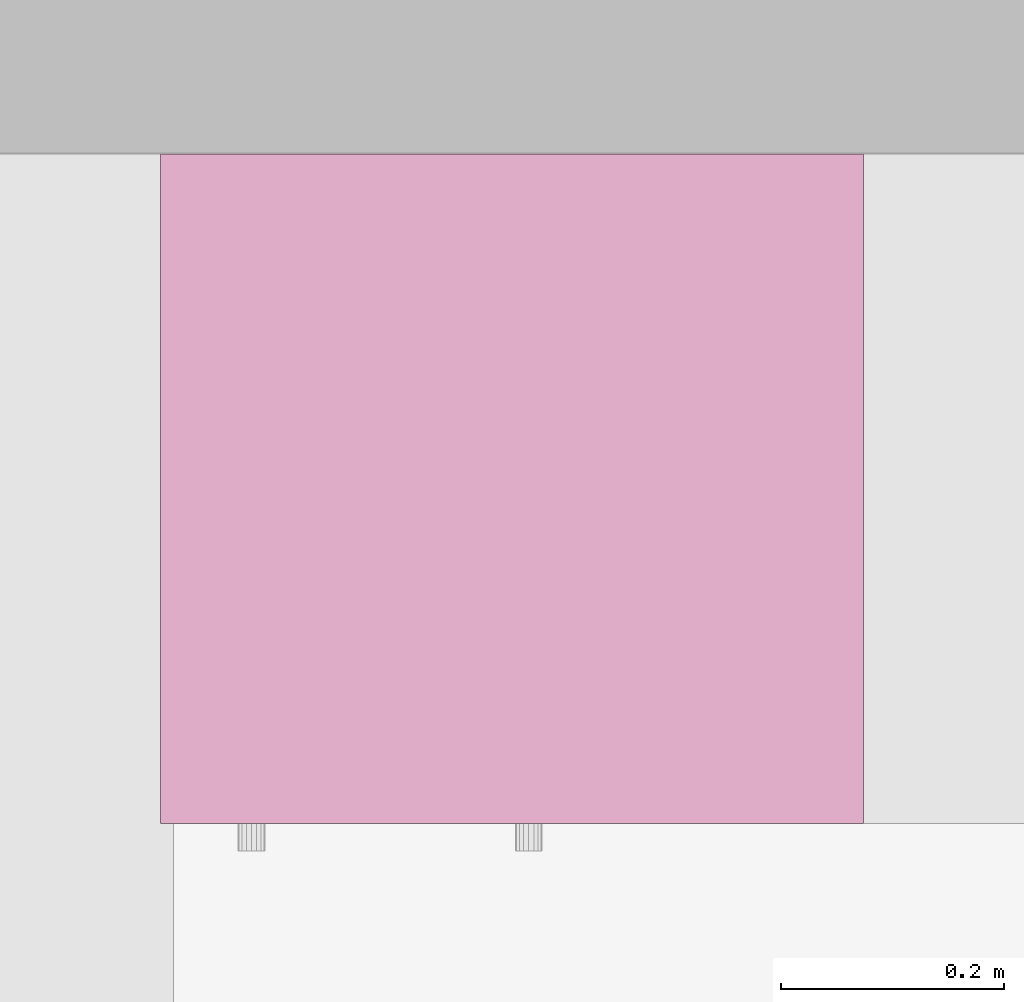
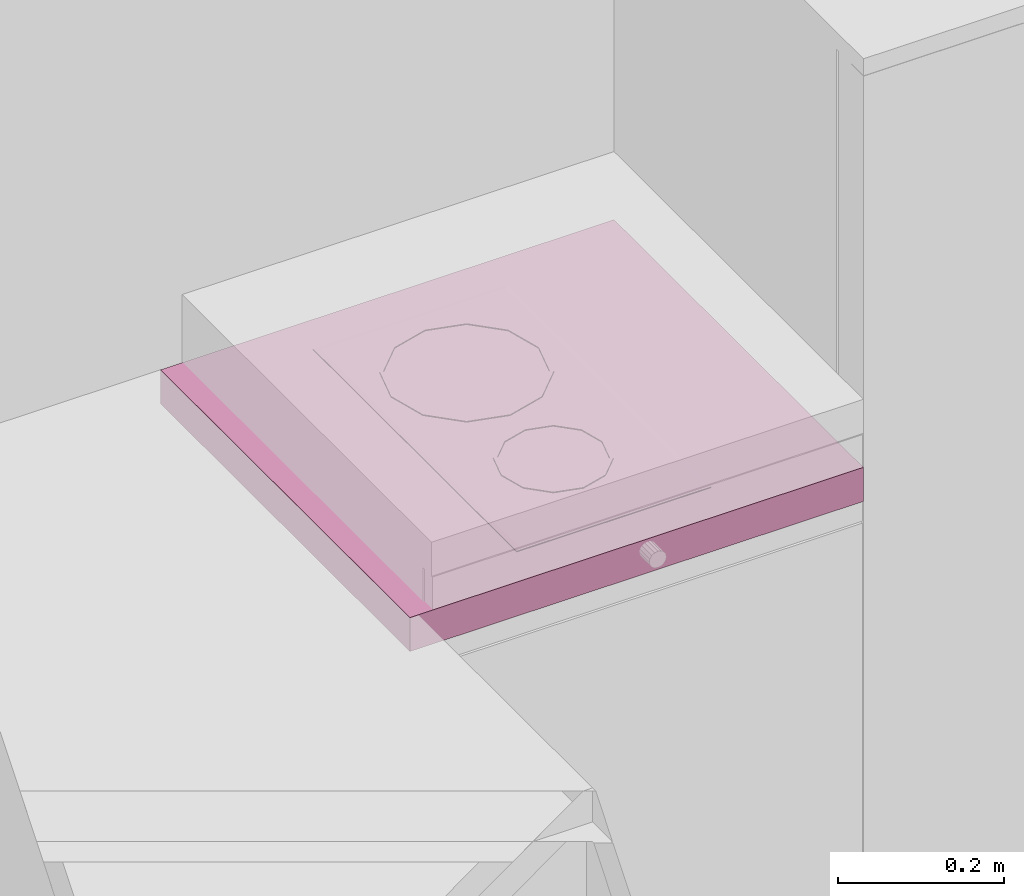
# One storey, part 158 of 172: 1 furnishing.
"""IFC2X3 building model written with IfcOpenShell, lengths in millimetres."""

from ifc_helpers import new_model, entity, si_unit, converted_unit, money_unit, direction, frame, origin_with_axes, place, context, subcontext, project, spatial, faceted_brep, source, transform, mapped, material, material_list, type_object, element, save


model = new_model("IFC2X3")

# Units and contexts
model_context = context("Model", 3, precision=1e-05, world=origin_with_axes(), true_north=direction((0.0, 1.0)))
body_context = subcontext(model_context, "Body", "Model", "MODEL_VIEW")
ifc_project = project(units=[si_unit("LENGTHUNIT", "METRE", prefix="MILLI"), si_unit("AREAUNIT", "SQUARE_METRE"), si_unit("VOLUMEUNIT", "CUBIC_METRE"), converted_unit("PLANEANGLEUNIT", "DEGREE", entity("IfcPlaneAngleMeasure", 0.0174532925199), si_unit("PLANEANGLEUNIT", "RADIAN"), dimensions=[0, 0, 0, 0, 0, 0, 0]), si_unit("SOLIDANGLEUNIT", "STERADIAN"), money_unit("USD"), converted_unit("TIMEUNIT", "Year", entity("IfcTimeMeasure", 31556926.0), si_unit("TIMEUNIT", "SECOND"), dimensions=[0, 0, 0, 0, 0, 0, 0]), si_unit("MASSUNIT", "GRAM"), si_unit("THERMODYNAMICTEMPERATUREUNIT", "DEGREE_CELSIUS"), si_unit("LUMINOUSINTENSITYUNIT", "LUMEN")], contexts=[model_context])

# Site, building, storey
site_placement = place(None, origin_with_axes())
site = spatial("IfcSite", under=ifc_project, at=site_placement, Name="Site", CompositionType="ELEMENT")
building_placement = place(site_placement, origin_with_axes())
building = spatial("IfcBuilding", under=site, at=building_placement, Name="Building", CompositionType="ELEMENT")
storey_placement = place(building_placement, frame((0.0, 0.0, 3200.0), z_axis=(0.0, 0.0, 1.0), x_axis=(1.0, 0.0, 0.0)))
storey = spatial("IfcBuildingStorey", under=building, at=storey_placement, Name="3KORRUS", CompositionType="ELEMENT", Elevation=3200.0)

# Furnishing
ifc_material = material(Name="Background")
ifc_material_list = material_list([ifc_material])
furnishing_element_type = type_object("IfcFurnishingElementType", Name="Built-in Cooktops 19")
shared_shape = source(origin_with_axes(), body_context, "Body", "Brep", [
    faceted_brep([(0.0, 0.0, 850.0), (0.0, 0.0, 900.0), (-629.977, 0.0, 900.0), (-629.977, 0.0, 850.0), (0.0, 600.0, 850.0), (0.0, 600.0, 900.0), (-629.977, 600.0, 900.0), (-629.977, 600.0, 850.0)], [[[0, 1, 2, 3]], [[4, 5, 1, 0]], [[1, 5, 6, 2]], [[3, 2, 6, 7]], [[0, 3, 7, 4]], [[7, 6, 5, 4]]]),
    faceted_brep([(-179.989, 55.0, 900.0), (-449.989, 55.0, 900.0), (-449.989, 545.0, 900.0), (-179.989, 545.0, 900.0), (-179.989, 55.0, 900.8), (-449.989, 55.0, 900.8), (-449.989, 545.0, 900.8), (-179.989, 545.0, 900.8), (-186.794, 61.806, 902.0), (-443.183, 61.806, 902.0), (-443.183, 538.194, 902.0), (-186.794, 538.194, 902.0)], [[[0, 1, 2, 3]], [[0, 4, 5, 1]], [[1, 5, 6, 2]], [[2, 6, 7, 3]], [[3, 7, 4, 0]], [[4, 8, 9, 5]], [[5, 9, 10, 6]], [[6, 10, 11, 7]], [[7, 11, 8, 4]], [[10, 9, 8, 11]]]),
    faceted_brep([(-209.989, 409.27, 902.0), (-209.989, 409.27, 903.0), (-224.056, 356.77, 903.0), (-224.056, 356.77, 902.0), (-224.056, 461.77, 902.0), (-224.056, 461.77, 903.0), (-262.489, 500.203, 903.0), (-314.989, 514.27, 903.0), (-367.489, 500.203, 903.0), (-405.921, 461.77, 903.0), (-419.989, 409.27, 903.0), (-405.921, 356.77, 903.0), (-367.489, 318.337, 903.0), (-314.989, 304.27, 903.0), (-262.489, 318.337, 903.0), (-214.989, 409.27, 903.0), (-228.386, 359.27, 903.0), (-264.989, 322.667, 903.0), (-314.989, 309.27, 903.0), (-364.989, 322.667, 903.0), (-401.591, 359.27, 903.0), (-414.989, 409.27, 903.0), (-401.591, 459.27, 903.0), (-364.989, 495.873, 903.0), (-314.989, 509.27, 903.0), (-264.989, 495.873, 903.0), (-228.386, 459.27, 903.0), (-262.489, 318.337, 902.0), (-314.989, 304.27, 902.0), (-367.489, 318.337, 902.0), (-405.921, 356.77, 902.0), (-419.989, 409.27, 902.0), (-405.921, 461.77, 902.0), (-367.489, 500.203, 902.0), (-314.989, 514.27, 902.0), (-262.489, 500.203, 902.0), (-214.989, 409.27, 902.0), (-228.386, 459.27, 902.0), (-264.989, 495.873, 902.0), (-314.989, 509.27, 902.0), (-364.989, 495.873, 902.0), (-401.591, 459.27, 902.0), (-414.989, 409.27, 902.0), (-401.591, 359.27, 902.0), (-364.989, 322.667, 902.0), (-314.989, 309.27, 902.0), (-264.989, 322.667, 902.0), (-228.386, 359.27, 902.0)], [[[0, 1, 2, 3]], [[4, 5, 1, 0]], [[1, 5, 6, 7, 8, 9, 10, 11, 12, 13, 14, 2], [15, 16, 17, 18, 19, 20, 21, 22, 23, 24, 25, 26]], [[3, 2, 14, 27]], [[0, 3, 27, 28, 29, 30, 31, 32, 33, 34, 35, 4], [36, 37, 38, 39, 40, 41, 42, 43, 44, 45, 46, 47]], [[35, 6, 5, 4]], [[34, 7, 6, 35]], [[33, 8, 7, 34]], [[32, 9, 8, 33]], [[31, 10, 9, 32]], [[30, 11, 10, 31]], [[29, 12, 11, 30]], [[28, 13, 12, 29]], [[27, 14, 13, 28]], [[47, 16, 15, 36]], [[46, 17, 16, 47]], [[45, 18, 17, 46]], [[44, 19, 18, 45]], [[43, 20, 19, 44]], [[42, 21, 20, 43]], [[41, 22, 21, 42]], [[40, 23, 22, 41]], [[39, 24, 23, 40]], [[38, 25, 24, 39]], [[37, 26, 25, 38]], [[36, 15, 26, 37]]]),
    faceted_brep([(-242.489, 200.53, 902.0), (-242.489, 200.53, 903.0), (-252.202, 164.28, 903.0), (-252.202, 164.28, 902.0), (-252.202, 236.78, 902.0), (-252.202, 236.78, 903.0), (-278.739, 263.317, 903.0), (-314.989, 273.03, 903.0), (-351.239, 263.317, 903.0), (-377.775, 236.78, 903.0), (-387.489, 200.53, 903.0), (-377.775, 164.28, 903.0), (-351.239, 137.743, 903.0), (-314.989, 128.03, 903.0), (-278.739, 137.743, 903.0), (-247.489, 200.53, 903.0), (-256.532, 166.78, 903.0), (-281.239, 142.073, 903.0), (-314.989, 133.03, 903.0), (-348.739, 142.073, 903.0), (-373.445, 166.78, 903.0), (-382.489, 200.53, 903.0), (-373.445, 234.28, 903.0), (-348.739, 258.987, 903.0), (-314.989, 268.03, 903.0), (-281.239, 258.987, 903.0), (-256.532, 234.28, 903.0), (-278.739, 137.743, 902.0), (-314.989, 128.03, 902.0), (-351.239, 137.743, 902.0), (-377.775, 164.28, 902.0), (-387.489, 200.53, 902.0), (-377.775, 236.78, 902.0), (-351.239, 263.317, 902.0), (-314.989, 273.03, 902.0), (-278.739, 263.317, 902.0), (-247.489, 200.53, 902.0), (-256.532, 234.28, 902.0), (-281.239, 258.987, 902.0), (-314.989, 268.03, 902.0), (-348.739, 258.987, 902.0), (-373.445, 234.28, 902.0), (-382.489, 200.53, 902.0), (-373.445, 166.78, 902.0), (-348.739, 142.073, 902.0), (-314.989, 133.03, 902.0), (-281.239, 142.073, 902.0), (-256.532, 166.78, 902.0)], [[[0, 1, 2, 3]], [[4, 5, 1, 0]], [[1, 5, 6, 7, 8, 9, 10, 11, 12, 13, 14, 2], [15, 16, 17, 18, 19, 20, 21, 22, 23, 24, 25, 26]], [[3, 2, 14, 27]], [[0, 3, 27, 28, 29, 30, 31, 32, 33, 34, 35, 4], [36, 37, 38, 39, 40, 41, 42, 43, 44, 45, 46, 47]], [[35, 6, 5, 4]], [[34, 7, 6, 35]], [[33, 8, 7, 34]], [[32, 9, 8, 33]], [[31, 10, 9, 32]], [[30, 11, 10, 31]], [[29, 12, 11, 30]], [[28, 13, 12, 29]], [[27, 14, 13, 28]], [[47, 16, 15, 36]], [[46, 17, 16, 47]], [[45, 18, 17, 46]], [[44, 19, 18, 45]], [[43, 20, 19, 44]], [[42, 21, 20, 43]], [[41, 22, 21, 42]], [[40, 23, 22, 41]], [[39, 24, 23, 40]], [[38, 25, 24, 39]], [[37, 26, 25, 38]], [[36, 15, 26, 37]]]),
])
furnishing_placement = place(storey_placement, frame((-40772.0319183, -9967.37850445, 0.0), z_axis=(0.0, 0.0, 1.0), x_axis=(1.0, 0.0, 0.0)))
element("IfcFurnishingElement", 1, at=furnishing_placement, inside=storey, type_object=furnishing_element_type, material=ifc_material_list, Name="FU - 007", context=body_context, shape_type="MappedRepresentation", body=[
    mapped(shared_shape, transform((0.0, 0.0, 0.0))),
])

save(model, "model.ifc")
